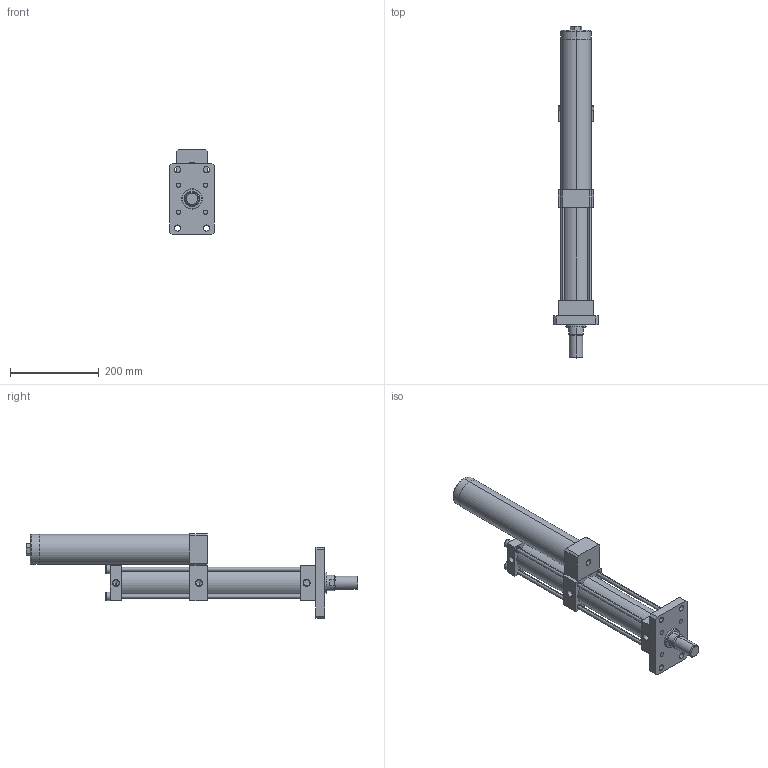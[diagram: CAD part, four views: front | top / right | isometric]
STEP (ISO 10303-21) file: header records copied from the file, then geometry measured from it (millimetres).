
FILE_DESCRIPTION (( 'STEP AP203' ), '1' );
FILE_NAME ('MPT-63-150-10-1T.STEP', '2016-03-17T09:40:24', ( 'WIN' ), ( '' ), 'SwSTEP 2.0', 'SolidWorks 2014', '' );
FILE_SCHEMA (( 'CONFIG_CONTROL_DESIGN' ));
Length unit declared in the file: millimetre
Products named in the file (1): MPT-63-150-10-1T
Bounding box: 100 x 750 x 191 mm (x, y, z)
Volume: 2492748.1 mm3; surface area: 481676.5 mm2
Topology: 15 solids, 15 shells, 252 faces, 573 edges, 360 vertices
Faces by surface type: plane 132, cylinder 84, cone 24, torus 12
Entity records: 7243 total; most frequent: DIRECTION 1306, CARTESIAN_POINT 1279, ORIENTED_EDGE 1134, EDGE_CURVE 567, AXIS2_PLACEMENT_3D 497, VERTEX_POINT 360, VECTOR 312, LINE 312
